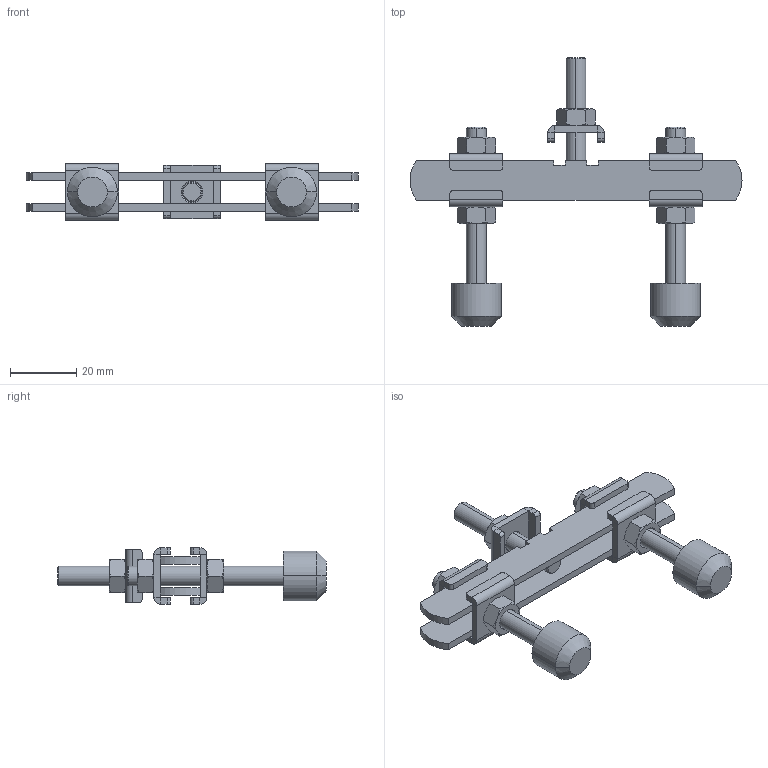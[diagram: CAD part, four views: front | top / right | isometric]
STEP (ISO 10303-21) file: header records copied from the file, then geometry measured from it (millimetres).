
FILE_DESCRIPTION (( 'STEP AP203' ), '1' );
FILE_NAME ('PBD-M6.STEP', '2011-09-15T14:36:42', ( 'Usuario' ), ( '' ), 'SwSTEP 2.0', 'SolidWorks 2011', '' );
FILE_SCHEMA (( 'CONFIG_CONTROL_DESIGN' ));
Length unit declared in the file: millimetre
Products named in the file (7): 20.20009; PBD-M6; 10.20002; 20.20013; 20.10002; 11.50001; 14.10004
Assembly tree (17 placements, depth 2):
  PBD-M6
    20.20009  x2
    11.50001  x5
    14.10004  x5
    20.20013  x2
    20.10002  x2
    10.20002
Bounding box: 100 x 81 x 17 mm (x, y, z)
Volume: 17944.8 mm3; surface area: 16463.8 mm2
Topology: 17 solids, 17 shells, 344 faces, 750 edges, 438 vertices
Faces by surface type: plane 164, cone 100, cylinder 80
Entity records: 3698 total; most frequent: CARTESIAN_POINT 559, DIRECTION 481, ORIENTED_EDGE 406, EDGE_CURVE 203, AXIS2_PLACEMENT_3D 187, VERTEX_POINT 121, VECTOR 107, LINE 107
